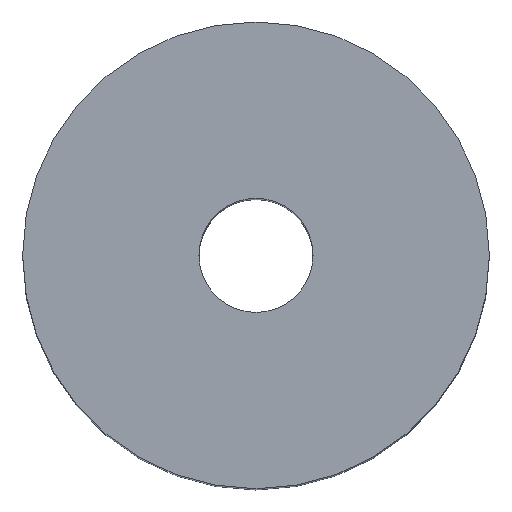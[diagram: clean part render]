
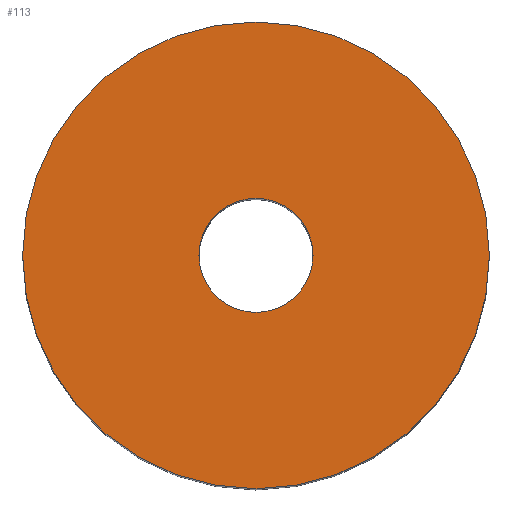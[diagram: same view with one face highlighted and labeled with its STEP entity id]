
A CAD part, top view. The second image highlights one B-rep face of the part: STEP entity #113.
In plain terms, the highlighted planar face has unit normal (0, 0, 1).
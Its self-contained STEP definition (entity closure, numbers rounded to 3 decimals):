
#113=ADVANCED_FACE('',(#121,#122),#119,.T.);
#119=PLANE('',#190);
#121=FACE_BOUND('',#125,.T.);
#122=FACE_BOUND('',#126,.T.);
#125=EDGE_LOOP('',(#133,#134));
#126=EDGE_LOOP('',(#135,#136));
#133=ORIENTED_EDGE('',*,*,#165,.T.);
#134=ORIENTED_EDGE('',*,*,#166,.T.);
#135=ORIENTED_EDGE('',*,*,#167,.F.);
#136=ORIENTED_EDGE('',*,*,#168,.F.);
#157=VERTEX_POINT('',#236);
#158=VERTEX_POINT('',#237);
#159=VERTEX_POINT('',#240);
#160=VERTEX_POINT('',#241);
#165=EDGE_CURVE('',#157,#158,#177,.T.);
#166=EDGE_CURVE('',#158,#157,#178,.T.);
#167=EDGE_CURVE('',#159,#160,#179,.T.);
#168=EDGE_CURVE('',#160,#159,#180,.T.);
#177=CIRCLE('',#186,45.);
#178=CIRCLE('',#187,45.);
#179=CIRCLE('',#188,11.);
#180=CIRCLE('',#189,11.);
#186=AXIS2_PLACEMENT_3D('',#235,#202,#203);
#187=AXIS2_PLACEMENT_3D('',#238,#204,#205);
#188=AXIS2_PLACEMENT_3D('',#239,#206,#207);
#189=AXIS2_PLACEMENT_3D('',#242,#208,#209);
#190=AXIS2_PLACEMENT_3D('',#243,#210,#211);
#202=DIRECTION('',(0.,0.,1.));
#203=DIRECTION('',(0.,1.,0.));
#204=DIRECTION('',(0.,0.,1.));
#205=DIRECTION('',(0.,-1.,0.));
#206=DIRECTION('',(0.,0.,1.));
#207=DIRECTION('',(0.,-1.,0.));
#208=DIRECTION('',(0.,0.,1.));
#209=DIRECTION('',(0.,1.,0.));
#210=DIRECTION('',(0.,0.,1.));
#211=DIRECTION('',(0.,1.,0.));
#235=CARTESIAN_POINT('',(0.,0.,140.));
#236=CARTESIAN_POINT('',(-45.,0.,140.));
#237=CARTESIAN_POINT('',(45.,0.,140.));
#238=CARTESIAN_POINT('',(0.,0.,140.));
#239=CARTESIAN_POINT('',(0.,0.,140.));
#240=CARTESIAN_POINT('',(11.,0.,140.));
#241=CARTESIAN_POINT('',(-11.,0.,140.));
#242=CARTESIAN_POINT('',(0.,0.,140.));
#243=CARTESIAN_POINT('',(0.,0.,140.));
